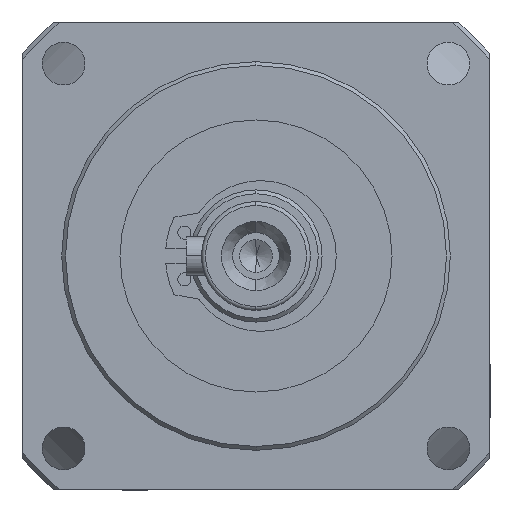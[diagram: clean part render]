
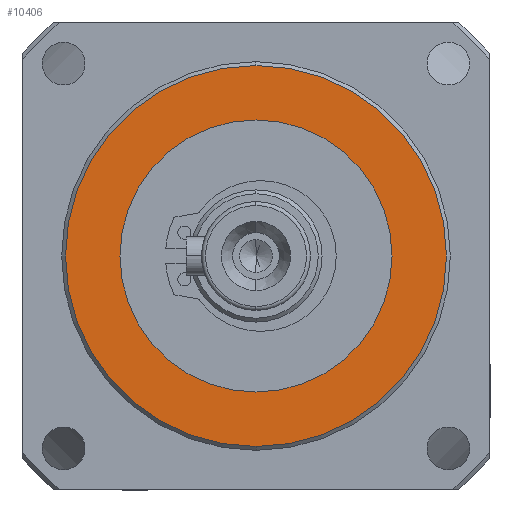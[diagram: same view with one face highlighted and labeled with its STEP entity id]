
A CAD part, left-side view. The second image highlights one B-rep face of the part: STEP entity #10406.
In plain terms, the highlighted planar face has unit normal (-1, 0, 0).
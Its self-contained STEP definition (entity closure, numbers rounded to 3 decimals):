
#435 = EDGE_LOOP ( 'NONE', ( #10848, #12120 ) ) ;
#675 = CIRCLE ( 'NONE', #3969, 17.5 ) ;
#691 = CARTESIAN_POINT ( 'NONE',  ( 32., 0., 0. ) ) ;
#1181 = PLANE ( 'NONE',  #3806 ) ;
#1653 = VERTEX_POINT ( 'NONE', #2854 ) ;
#1818 = DIRECTION ( 'NONE',  ( 0., 0., 1. ) ) ;
#2577 = FACE_OUTER_BOUND ( 'NONE', #12067, .T. ) ;
#2691 = VERTEX_POINT ( 'NONE', #5171 ) ;
#2854 = CARTESIAN_POINT ( 'NONE',  ( 32., 0., 24.5 ) ) ;
#3032 = AXIS2_PLACEMENT_3D ( 'NONE', #691, #8639, #1818 ) ;
#3138 = DIRECTION ( 'NONE',  ( -1., 0., 0. ) ) ;
#3352 = CARTESIAN_POINT ( 'NONE',  ( 32., 0., 0. ) ) ;
#3441 = DIRECTION ( 'NONE',  ( -1., 0., 0. ) ) ;
#3507 = CARTESIAN_POINT ( 'NONE',  ( 32., 0., -17.5 ) ) ;
#3709 = ORIENTED_EDGE ( 'NONE', *, *, #10345, .T. ) ;
#3710 = CARTESIAN_POINT ( 'NONE',  ( 32., 0., -24.5 ) ) ;
#3806 = AXIS2_PLACEMENT_3D ( 'NONE', #11427, #4659, #12495 ) ;
#3969 = AXIS2_PLACEMENT_3D ( 'NONE', #3352, #11251, #4489 ) ;
#4489 = DIRECTION ( 'NONE',  ( 0., 0., 1. ) ) ;
#4659 = DIRECTION ( 'NONE',  ( 1., 0., 0. ) ) ;
#5171 = CARTESIAN_POINT ( 'NONE',  ( 32., 0., 17.5 ) ) ;
#6468 = VERTEX_POINT ( 'NONE', #3507 ) ;
#6756 = EDGE_CURVE ( 'NONE', #2691, #6468, #8336, .T. ) ;
#7953 = EDGE_CURVE ( 'NONE', #6468, #2691, #675, .T. ) ;
#8336 = CIRCLE ( 'NONE', #3032, 17.5 ) ;
#8423 = EDGE_CURVE ( 'NONE', #10047, #1653, #12784, .T. ) ;
#8639 = DIRECTION ( 'NONE',  ( -1., 0., 0. ) ) ;
#8720 = AXIS2_PLACEMENT_3D ( 'NONE', #9947, #3138, #11054 ) ;
#8992 = CIRCLE ( 'NONE', #12356, 24.5 ) ;
#9947 = CARTESIAN_POINT ( 'NONE',  ( 32., 0., 0. ) ) ;
#10047 = VERTEX_POINT ( 'NONE', #3710 ) ;
#10224 = CARTESIAN_POINT ( 'NONE',  ( 32., 0., 0. ) ) ;
#10345 = EDGE_CURVE ( 'NONE', #1653, #10047, #8992, .T. ) ;
#10406 = ADVANCED_FACE ( 'NONE', ( #11601, #2577 ), #1181, .F. ) ;
#10848 = ORIENTED_EDGE ( 'NONE', *, *, #6756, .F. ) ;
#11054 = DIRECTION ( 'NONE',  ( 0., 0., 1. ) ) ;
#11085 = ORIENTED_EDGE ( 'NONE', *, *, #8423, .T. ) ;
#11251 = DIRECTION ( 'NONE',  ( -1., 0., 0. ) ) ;
#11344 = DIRECTION ( 'NONE',  ( 0., 0., 1. ) ) ;
#11427 = CARTESIAN_POINT ( 'NONE',  ( 32., 17.5, 0. ) ) ;
#11601 = FACE_BOUND ( 'NONE', #435, .T. ) ;
#12067 = EDGE_LOOP ( 'NONE', ( #11085, #3709 ) ) ;
#12120 = ORIENTED_EDGE ( 'NONE', *, *, #7953, .F. ) ;
#12356 = AXIS2_PLACEMENT_3D ( 'NONE', #10224, #3441, #11344 ) ;
#12495 = DIRECTION ( 'NONE',  ( 0., 0., -1. ) ) ;
#12784 = CIRCLE ( 'NONE', #8720, 24.5 ) ;
